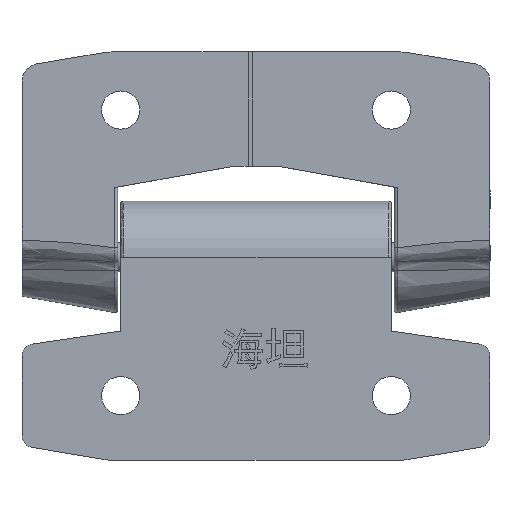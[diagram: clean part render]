
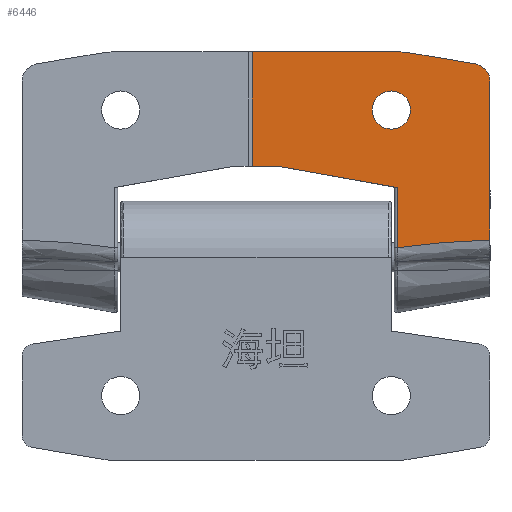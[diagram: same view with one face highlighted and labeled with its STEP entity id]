
A CAD part, front view. The second image highlights one B-rep face of the part: STEP entity #6446.
In plain terms, the highlighted planar face has unit normal (0, -1, 0).
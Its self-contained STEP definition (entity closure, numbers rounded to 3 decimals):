
#134 = CIRCLE ( 'NONE', #3339, 3.25 ) ;
#234 = EDGE_CURVE ( 'NONE', #5362, #7411, #7337, .T. ) ;
#299 = EDGE_CURVE ( 'NONE', #757, #5446, #335, .T. ) ;
#335 = CIRCLE ( 'NONE', #5815, 3.25 ) ;
#397 = CARTESIAN_POINT ( 'NONE',  ( 93.789, -22.401, -10.057 ) ) ;
#436 = CARTESIAN_POINT ( 'NONE',  ( 85.919, -22.401, -10.779 ) ) ;
#598 = DIRECTION ( 'NONE',  ( -0.986, 0., 0.167 ) ) ;
#639 = LINE ( 'NONE', #3324, #7111 ) ;
#707 = ORIENTED_EDGE ( 'NONE', *, *, #3835, .T. ) ;
#757 = VERTEX_POINT ( 'NONE', #4968 ) ;
#933 = CARTESIAN_POINT ( 'NONE',  ( 99.056, -22.401, -9.838 ) ) ;
#980 = DIRECTION ( 'NONE',  ( 0., 1., 0. ) ) ;
#1155 = FACE_OUTER_BOUND ( 'NONE', #1444, .T. ) ;
#1232 = LINE ( 'NONE', #6344, #4688 ) ;
#1286 = EDGE_CURVE ( 'NONE', #4897, #2817, #639, .T. ) ;
#1444 = EDGE_LOOP ( 'NONE', ( #2477, #5729, #7448, #6468, #2597, #5335, #707, #5920, #2192, #7737 ) ) ;
#1538 = EDGE_CURVE ( 'NONE', #4110, #2934, #6965, .T. ) ;
#1570 = EDGE_CURVE ( 'NONE', #3390, #2560, #5817, .T. ) ;
#1621 = CARTESIAN_POINT ( 'NONE',  ( 89.85, -22.401, -10.37 ) ) ;
#1740 = CARTESIAN_POINT ( 'NONE',  ( 96.421, -22.401, -9.918 ) ) ;
#1796 = VERTEX_POINT ( 'NONE', #8039 ) ;
#1916 = CARTESIAN_POINT ( 'NONE',  ( 82.623, -22.401, 2.16 ) ) ;
#2192 = ORIENTED_EDGE ( 'NONE', *, *, #4629, .F. ) ;
#2242 = CARTESIAN_POINT ( 'NONE',  ( 99.056, -22.401, 17.126 ) ) ;
#2391 = DIRECTION ( 'NONE',  ( 0., 0., 1. ) ) ;
#2428 = DIRECTION ( 'NONE',  ( 0., 0., 1. ) ) ;
#2477 = ORIENTED_EDGE ( 'NONE', *, *, #8081, .F. ) ;
#2560 = VERTEX_POINT ( 'NONE', #7473 ) ;
#2597 = ORIENTED_EDGE ( 'NONE', *, *, #3762, .T. ) ;
#2664 = CARTESIAN_POINT ( 'NONE',  ( 85.965, -22.401, 21.879 ) ) ;
#2680 = AXIS2_PLACEMENT_3D ( 'NONE', #1916, #6271, #5635 ) ;
#2697 = LINE ( 'NONE', #5832, #5646 ) ;
#2781 = EDGE_CURVE ( 'NONE', #1796, #2871, #1232, .T. ) ;
#2817 = VERTEX_POINT ( 'NONE', #5410 ) ;
#2871 = VERTEX_POINT ( 'NONE', #2664 ) ;
#2917 = CARTESIAN_POINT ( 'NONE',  ( 83.306, -22.401, -11.137 ) ) ;
#2934 = VERTEX_POINT ( 'NONE', #933 ) ;
#2959 = FACE_BOUND ( 'NONE', #6511, .T. ) ;
#2963 = CARTESIAN_POINT ( 'NONE',  ( 63.306, -22.401, 2.66 ) ) ;
#2980 = CARTESIAN_POINT ( 'NONE',  ( 83.306, -22.401, 22.16 ) ) ;
#3324 = CARTESIAN_POINT ( 'NONE',  ( 99.056, -22.401, 22.16 ) ) ;
#3339 = AXIS2_PLACEMENT_3D ( 'NONE', #6198, #6241, #2428 ) ;
#3390 = VERTEX_POINT ( 'NONE', #6864 ) ;
#3550 = DIRECTION ( 'NONE',  ( -1., 0., 0. ) ) ;
#3668 = VECTOR ( 'NONE', #3550, 1000. ) ;
#3762 = EDGE_CURVE ( 'NONE', #4110, #1796, #6823, .T. ) ;
#3774 = DIRECTION ( 'NONE',  ( 0., 0., -1. ) ) ;
#3835 = EDGE_CURVE ( 'NONE', #2871, #4897, #4019, .T. ) ;
#3907 = ORIENTED_EDGE ( 'NONE', *, *, #299, .T. ) ;
#4019 = CIRCLE ( 'NONE', #2680, 20. ) ;
#4110 = VERTEX_POINT ( 'NONE', #2242 ) ;
#4576 = VECTOR ( 'NONE', #6247, 1000. ) ;
#4629 = EDGE_CURVE ( 'NONE', #7411, #2817, #2697, .T. ) ;
#4688 = VECTOR ( 'NONE', #598, 1000. ) ;
#4897 = VERTEX_POINT ( 'NONE', #5022 ) ;
#4908 = EDGE_CURVE ( 'NONE', #5446, #757, #134, .T. ) ;
#4915 = DIRECTION ( 'NONE',  ( 0., 1., 0. ) ) ;
#4952 = DIRECTION ( 'NONE',  ( -0.984, 0., 0.177 ) ) ;
#4968 = CARTESIAN_POINT ( 'NONE',  ( 82.306, -22.401, 15.494 ) ) ;
#5022 = CARTESIAN_POINT ( 'NONE',  ( 82.623, -22.401, 22.16 ) ) ;
#5075 = AXIS2_PLACEMENT_3D ( 'NONE', #6064, #6739, #7413 ) ;
#5245 = AXIS2_PLACEMENT_3D ( 'NONE', #7447, #4915, #6735 ) ;
#5305 = CARTESIAN_POINT ( 'NONE',  ( 63.306, -22.401, 2.66 ) ) ;
#5335 = ORIENTED_EDGE ( 'NONE', *, *, #2781, .T. ) ;
#5356 = CARTESIAN_POINT ( 'NONE',  ( 58.641, -22.401, 2.66 ) ) ;
#5362 = VERTEX_POINT ( 'NONE', #5305 ) ;
#5369 = VECTOR ( 'NONE', #3774, 1000. ) ;
#5402 = EDGE_CURVE ( 'NONE', #2560, #2934, #6114, .T. ) ;
#5410 = CARTESIAN_POINT ( 'NONE',  ( 58.641, -22.401, 22.16 ) ) ;
#5446 = VERTEX_POINT ( 'NONE', #5463 ) ;
#5463 = CARTESIAN_POINT ( 'NONE',  ( 82.306, -22.401, 8.994 ) ) ;
#5529 = CARTESIAN_POINT ( 'NONE',  ( 82.306, -22.401, 12.244 ) ) ;
#5635 = DIRECTION ( 'NONE',  ( 0., 0., 1. ) ) ;
#5646 = VECTOR ( 'NONE', #6558, 1000. ) ;
#5729 = ORIENTED_EDGE ( 'NONE', *, *, #1570, .T. ) ;
#5815 = AXIS2_PLACEMENT_3D ( 'NONE', #5529, #980, #2391 ) ;
#5817 = LINE ( 'NONE', #2980, #5369 ) ;
#5832 = CARTESIAN_POINT ( 'NONE',  ( 58.641, -22.401, -8.34 ) ) ;
#5877 = DIRECTION ( 'NONE',  ( -1., 0., 0. ) ) ;
#5920 = ORIENTED_EDGE ( 'NONE', *, *, #1286, .T. ) ;
#6059 = CARTESIAN_POINT ( 'NONE',  ( 99.056, -22.401, -9.838 ) ) ;
#6064 = CARTESIAN_POINT ( 'NONE',  ( 96.056, -22.401, 17.126 ) ) ;
#6105 = VECTOR ( 'NONE', #4952, 1000. ) ;
#6114 = B_SPLINE_CURVE_WITH_KNOTS ( 'NONE', 3,
 ( #2917, #7487, #436, #6136, #1621, #397, #1740, #6059 ),
 .UNSPECIFIED., .F., .F.,
 ( 4, 2, 2, 4 ),
 ( 0.001, 0.004, 0.008, 0.016 ),
 .UNSPECIFIED. ) ;
#6136 = CARTESIAN_POINT ( 'NONE',  ( 88.538, -22.401, -10.492 ) ) ;
#6198 = CARTESIAN_POINT ( 'NONE',  ( 82.306, -22.401, 12.244 ) ) ;
#6241 = DIRECTION ( 'NONE',  ( 0., 1., 0. ) ) ;
#6247 = DIRECTION ( 'NONE',  ( 0., 0., -1. ) ) ;
#6271 = DIRECTION ( 'NONE',  ( 0., -1., 0. ) ) ;
#6290 = CARTESIAN_POINT ( 'NONE',  ( 99.056, -22.401, 22.16 ) ) ;
#6344 = CARTESIAN_POINT ( 'NONE',  ( 98.644, -22.401, 19.73 ) ) ;
#6446 = ADVANCED_FACE ( 'NONE', ( #2959, #1155 ), #8113, .F. ) ;
#6468 = ORIENTED_EDGE ( 'NONE', *, *, #1538, .F. ) ;
#6511 = EDGE_LOOP ( 'NONE', ( #3907, #6579 ) ) ;
#6558 = DIRECTION ( 'NONE',  ( 0., 0., 1. ) ) ;
#6579 = ORIENTED_EDGE ( 'NONE', *, *, #4908, .T. ) ;
#6735 = DIRECTION ( 'NONE',  ( 1., 0., 0. ) ) ;
#6739 = DIRECTION ( 'NONE',  ( 0., -1., 0. ) ) ;
#6823 = CIRCLE ( 'NONE', #5075, 3. ) ;
#6864 = CARTESIAN_POINT ( 'NONE',  ( 83.306, -22.401, -0.929 ) ) ;
#6965 = LINE ( 'NONE', #6290, #4576 ) ;
#7111 = VECTOR ( 'NONE', #5877, 1000. ) ;
#7337 = LINE ( 'NONE', #2963, #3668 ) ;
#7411 = VERTEX_POINT ( 'NONE', #5356 ) ;
#7413 = DIRECTION ( 'NONE',  ( 0., 0., 1. ) ) ;
#7447 = CARTESIAN_POINT ( 'NONE',  ( 99.056, -22.401, 22.16 ) ) ;
#7448 = ORIENTED_EDGE ( 'NONE', *, *, #5402, .T. ) ;
#7473 = CARTESIAN_POINT ( 'NONE',  ( 83.306, -22.401, -11.137 ) ) ;
#7487 = CARTESIAN_POINT ( 'NONE',  ( 84.61, -22.401, -10.943 ) ) ;
#7609 = CARTESIAN_POINT ( 'NONE',  ( 63.306, -22.401, 2.66 ) ) ;
#7655 = LINE ( 'NONE', #7609, #6105 ) ;
#7737 = ORIENTED_EDGE ( 'NONE', *, *, #234, .F. ) ;
#8039 = CARTESIAN_POINT ( 'NONE',  ( 96.557, -22.401, 20.084 ) ) ;
#8081 = EDGE_CURVE ( 'NONE', #3390, #5362, #7655, .T. ) ;
#8113 = PLANE ( 'NONE',  #5245 ) ;
